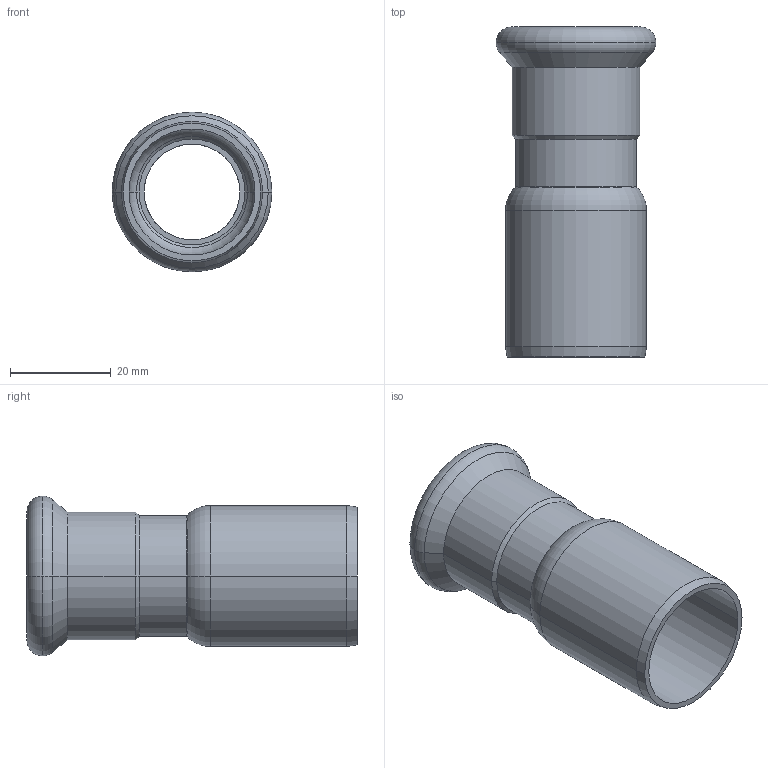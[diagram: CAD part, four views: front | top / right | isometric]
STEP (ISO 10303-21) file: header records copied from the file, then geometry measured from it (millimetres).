
FILE_DESCRIPTION(('CoCreate Modeling STEP Export'),'2;1');
FILE_NAME('C1407 22x28.stp','2014-11-07T16:29:07',(''),(''),'CoCreate Modeling STEP processor for AP214 (Solid Model)','CoCreate Modeling 17.00A 17-Jun-2010 (C) Parametric Technology GmbH','');
FILE_SCHEMA(('AUTOMOTIVE_DESIGN { 1 0 10303 214 1 1 1 1 }'));
Length unit declared in the file: millimetre
Products named in the file (2): C1407_22x28
Assembly tree (1 placements, depth 2):
  C1407_22x28
    C1407_22x28
Bounding box: 31.7 x 65.5 x 31.7 mm (x, y, z)
Volume: 9493.9 mm3; surface area: 11141.8 mm2
Topology: 1 solids, 1 shells, 39 faces, 80 edges, 46 vertices
Faces by surface type: cylinder 16, cone 10, torus 8, plane 5
Entity records: 871 total; most frequent: ORIENTED_EDGE 160, DIRECTION 132, CARTESIAN_POINT 125, EDGE_CURVE 80, AXIS2_PLACEMENT_3D 53, VERTEX_POINT 46, EDGE_LOOP 44, FACE_OUTER_BOUND 39
